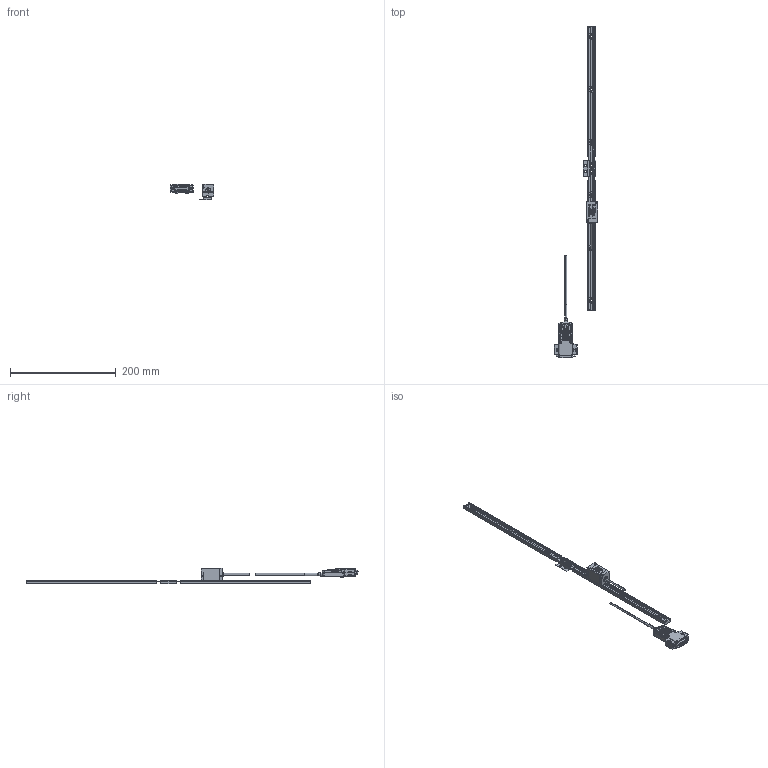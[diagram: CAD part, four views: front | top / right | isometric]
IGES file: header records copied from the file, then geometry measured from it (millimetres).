
Start section: Elysium IGES Interface
Global section: file name: 91HK:\20_商品設計\設計１課\個人\山室\05_作業中雑務\20220810_ST1300 3D HP掲載\ST1300-500F_G.igs; native system: Creo Elements/Direct Modeling 18.1I  13-Aug-2016; preprocessor: Creo Element/Direct IGES_3D V2.2; author: Unknown; organization: Unknown; date: 20220816.100543; units: millimetre
Bounding box: 83 x 629.1 x 30.1 mm (x, y, z)
Volume: 63585.3 mm3; surface area: 43084.7 mm2
Topology: 3 solids, 6 shells, 3382 faces, 9344 edges, 6106 vertices
Faces by surface type: bspline 3382
